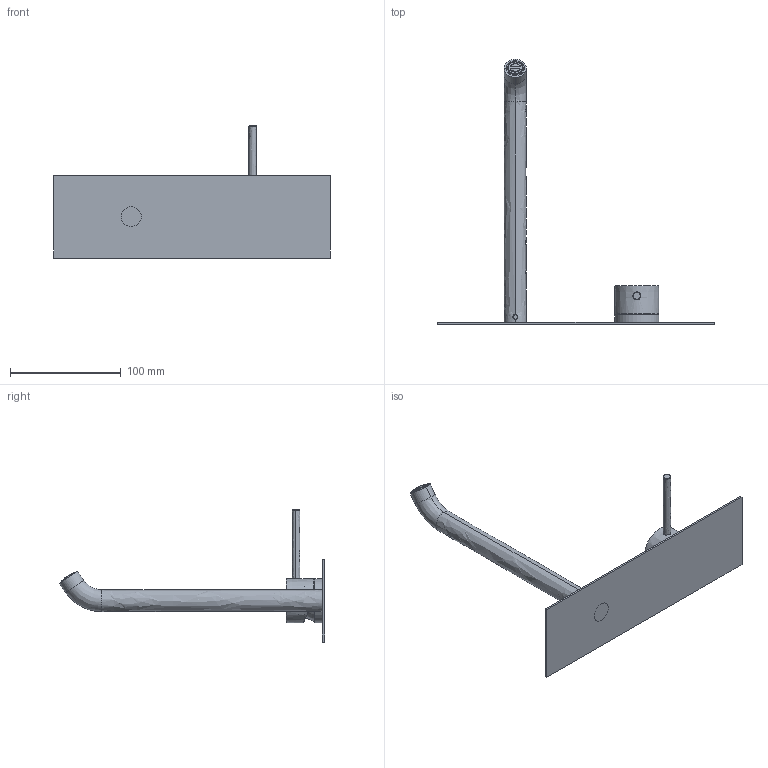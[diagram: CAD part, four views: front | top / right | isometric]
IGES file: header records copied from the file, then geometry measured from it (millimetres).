
Start section:  PTC IGES file: 69548A.igs
Global section: file name: 69548A.igs; native system: Creo Parametric by PTC Inc.; preprocessor: 2022014; author: carloff; organization: Unknown; date: 20251119.101440; units: millimetre
Bounding box: 250 x 240.19 x 119.6 mm (x, y, z)
Surface area: 78860.8 mm2 (no closed solid volume)
Topology: 0 solids, 0 shells, 1685 faces, 9998 edges, 9992 vertices
Faces by surface type: bspline 1413, revolution 269, extrusion 3
